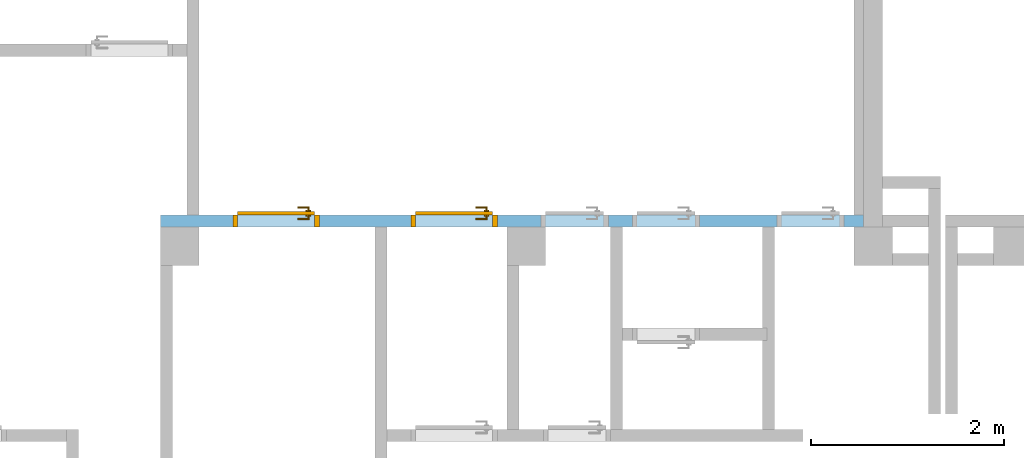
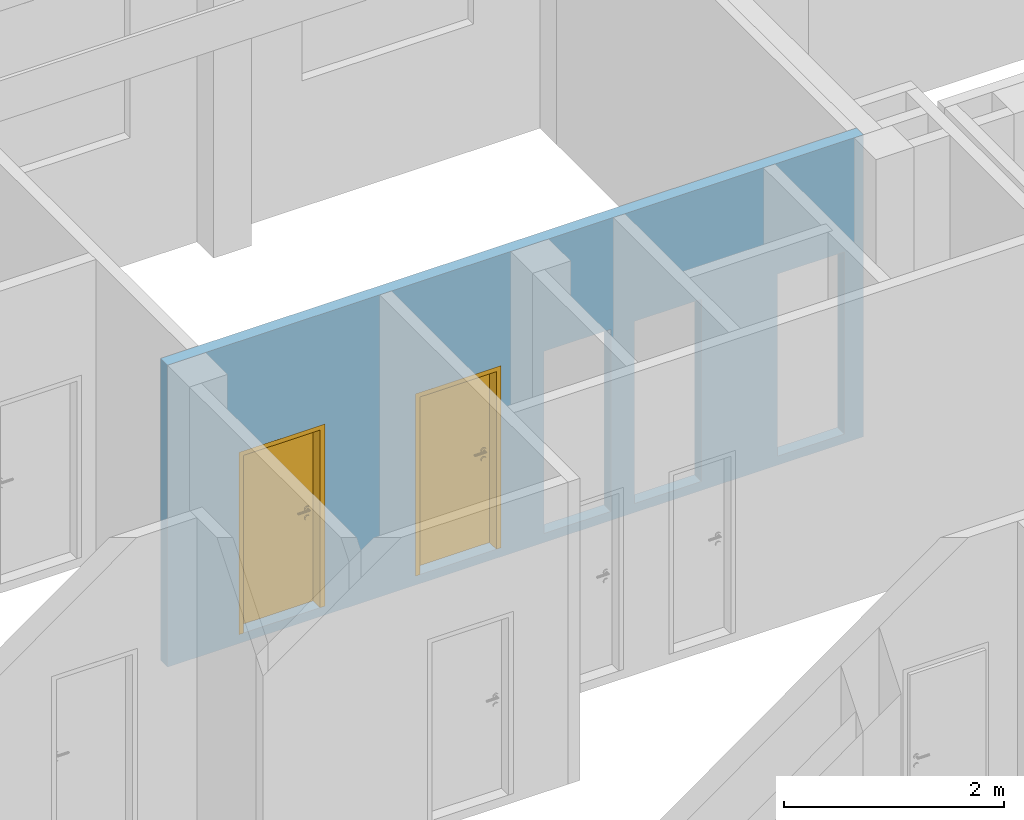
# One storey, part 17 of 37: 2 doors, 5 openings, plus 1 element that does not belong to this part.
"""IFC4 building model written with IfcOpenShell, lengths in metres."""

import ifcopenshell
import ifcopenshell.guid

model = None  # the IFC model being written
_history = None  # IfcOwnerHistory: only IFC2X3 demands one
_inside = {}  # id of a spatial element -> (the spatial element, [elements in it])
_under = {}  # id of a project, library or spatial element -> (it, [spatial elements below it])
_declared = {}  # id of a project -> (the project, [libraries it declares])
_typed = {}  # id of a type object -> (the type object, [elements of that type])
_made_of = {}  # id of a material, layer set ... -> (it, [elements and type objects made of it])


def new_model(schema):
    """Start an empty IFC model of exactly this schema.

    Asked for "IFC4X3", IfcOpenShell would pick the latest addendum, in which some entities
    have other attributes; the version numbers below select the first issue.
    IFC2X3 requires an IfcOwnerHistory on every rooted entity: one is made here for all.
    """
    global model, _history
    if schema == "IFC4X3":
        model = ifcopenshell.file(schema_version=(4, 3, 0, 0))
    else:
        model = ifcopenshell.file(schema=schema)
    _inside.clear()
    _under.clear()
    _declared.clear()
    _typed.clear()
    _made_of.clear()
    _history = None
    if model.schema == "IFC2X3":
        org = make("IfcOrganization", Name="unknown")
        user = make(
            "IfcPersonAndOrganization",
            ThePerson=make("IfcPerson", FamilyName="unknown"),
            TheOrganization=org,
        )
        app = make(
            "IfcApplication",
            ApplicationDeveloper=org,
            Version="unknown",
            ApplicationFullName="unknown",
            ApplicationIdentifier="unknown",
        )
        _history = make(
            "IfcOwnerHistory",
            OwningUser=user,
            OwningApplication=app,
            ChangeAction="ADDED",
            CreationDate=0,
        )
    return model


def make(cls, **values):
    """One entity of the class cls with the attributes given. An attribute that is None is left unset."""
    return model.create_entity(
        cls, **{name: value for name, value in values.items() if value is not None}
    )


def entity(cls, *values):
    """Any entity or typed value of the class cls, its attributes in the order of the schema. None: left unset."""
    e = model.create_entity(cls)
    for i, value in enumerate(values):
        if value is not None:
            e[i] = value
    return e


def rooted(cls, **values):
    """An entity with a GlobalId (a new one), such as an element, a storey or a relation."""
    return make(cls, GlobalId=ifcopenshell.guid.new(), OwnerHistory=_history, **values)


def si_unit(unit_type, name, prefix=None):
    """IfcSIUnit, for example si_unit("LENGTHUNIT", "METRE", prefix="MILLI")."""
    return make("IfcSIUnit", UnitType=unit_type, Prefix=prefix, Name=name)


def converted_unit(unit_type, name, factor, base, dimensions=None, offset=None):
    """IfcConversionBasedUnit, such as the inch: factor (a typed value) times the base unit."""
    return make(
        "IfcConversionBasedUnit"
        if offset is None
        else "IfcConversionBasedUnitWithOffset",
        ConversionOffset=offset,
        Dimensions=None
        if dimensions is None
        else entity("IfcDimensionalExponents", *dimensions),
        UnitType=unit_type,
        Name=name,
        ConversionFactor=make(
            "IfcMeasureWithUnit", ValueComponent=factor, UnitComponent=base
        ),
    )


def derived_unit(unit_type, elements):
    """IfcDerivedUnit: a product of units, each with its exponent."""
    return make(
        "IfcDerivedUnit",
        Elements=[
            make("IfcDerivedUnitElement", Unit=unit, Exponent=power)
            for unit, power in elements
        ],
        UnitType=unit_type,
    )


def assignment(units):
    """IfcUnitAssignment: the units of a project."""
    return None if units is None else make("IfcUnitAssignment", Units=units)


def point(xyz):
    """IfcCartesianPoint."""
    return None if xyz is None else make("IfcCartesianPoint", Coordinates=xyz)


def direction(xyz):
    """IfcDirection."""
    return None if xyz is None else make("IfcDirection", DirectionRatios=xyz)


def frame(location, z_axis=None, x_axis=None):
    """IfcAxis2Placement3D, a coordinate frame: its origin and axes. An axis left out is left unset."""
    return make(
        "IfcAxis2Placement3D",
        Location=point(location),
        Axis=direction(z_axis),
        RefDirection=direction(x_axis),
    )


def frame_2d(location, x_axis=None):
    """IfcAxis2Placement2D, a coordinate frame in the plane: its origin and x axis."""
    return make(
        "IfcAxis2Placement2D", Location=point(location), RefDirection=direction(x_axis)
    )


def origin():
    """The frame at (0, 0, 0) with its axes left unset."""
    return frame((0.0, 0.0, 0.0))


def origin_with_axes():
    """The frame at (0, 0, 0) with the z axis (0, 0, 1) and the x axis (1, 0, 0) written out."""
    return frame((0.0, 0.0, 0.0), z_axis=(0.0, 0.0, 1.0), x_axis=(1.0, 0.0, 0.0))


def place(relative_to, where):
    """IfcLocalPlacement: puts the frame where relative to a parent placement (None: the world)."""
    return make(
        "IfcLocalPlacement", PlacementRelTo=relative_to, RelativePlacement=where
    )


def context(
    kind, dimensions, precision=None, world=None, true_north=None, identifier=None
):
    """IfcGeometricRepresentationContext, for example the 3D "Model" context."""
    return make(
        "IfcGeometricRepresentationContext",
        ContextIdentifier=identifier,
        ContextType=kind,
        CoordinateSpaceDimension=dimensions,
        Precision=precision,
        WorldCoordinateSystem=world,
        TrueNorth=true_north,
    )


def subcontext(parent, identifier, kind, view, scale=None):
    """IfcGeometricRepresentationSubContext, for example "Body" below "Model"."""
    return make(
        "IfcGeometricRepresentationSubContext",
        ContextIdentifier=identifier,
        ContextType=kind,
        ParentContext=parent,
        TargetScale=scale,
        TargetView=view,
    )


def project(units=None, contexts=None):
    """IfcProject with its units and contexts."""
    return rooted(
        "IfcProject",
        Name="project",
        RepresentationContexts=contexts,
        UnitsInContext=assignment(units),
    )


def spatial(cls, under=None, at=None, **own):
    """A site, building, storey or space (cls), placed at a placement, below another one or the project."""
    s = rooted(cls, ObjectPlacement=at, **own)
    if under is not None:
        _under.setdefault(under.id(), (under, []))[1].append(s)
    return s


def polyline(points):
    """IfcPolyline through the points."""
    return make("IfcPolyline", Points=[point(p) for p in points])


def profile(cls, at=None, kind="AREA", **sizes):
    """A parametric profile (cls). Its sizes go by their IFC names, for example OverallWidth=200.0."""
    return make(cls, ProfileType=kind, Position=at, **sizes)


def rectangle(**sizes):
    """IfcRectangleProfileDef."""
    return profile("IfcRectangleProfileDef", **sizes)


def outline(outer, holes=None, kind="AREA"):
    """IfcArbitraryClosedProfileDef: a profile drawn as a closed curve; with holes, ...WithVoids."""
    if holes is None:
        return make("IfcArbitraryClosedProfileDef", ProfileType=kind, OuterCurve=outer)
    return make(
        "IfcArbitraryProfileDefWithVoids",
        ProfileType=kind,
        OuterCurve=outer,
        InnerCurves=holes,
    )


def extrude(swept, where, along, depth):
    """IfcExtrudedAreaSolid: the profile swept, set in the frame where, extruded along a direction by depth."""
    return make(
        "IfcExtrudedAreaSolid",
        SweptArea=swept,
        Position=where,
        ExtrudedDirection=direction(along),
        Depth=depth,
    )


def faces_of(points, faces, orient=None, outer=None):
    """IfcFace entities. A face is a list of loops; a loop is a list of indices into points, from 0.

    orient and outer hold one flag for each loop. By default every Orientation is true, the
    first loop of a face is its IfcFaceOuterBound and the others are IfcFaceBound.
    """
    made = []
    for i, loops in enumerate(faces):
        bounds = []
        for j, loop in enumerate(loops):
            is_outer = j == 0 if outer is None else outer[i][j]
            bounds.append(
                make(
                    "IfcFaceOuterBound" if is_outer else "IfcFaceBound",
                    Bound=make("IfcPolyLoop", Polygon=[points[k] for k in loop]),
                    Orientation=True if orient is None else orient[i][j],
                )
            )
        made.append(make("IfcFace", Bounds=bounds))
    return made


def closed_shell(faces, orient=None, outer=None):
    """The faces of one IfcClosedShell. faceted_brep and surface_model build it on their shared points."""
    return ("IfcClosedShell", faces, orient, outer)


def open_shell(faces, orient=None, outer=None):
    """The faces of one IfcOpenShell. surface_model builds it on its shared points."""
    return ("IfcOpenShell", faces, orient, outer)


def surface_model(cls, points, shells):
    """IfcFaceBasedSurfaceModel or IfcShellBasedSurfaceModel (cls): surfaces that need not close."""
    shared = [point(p) for p in points]
    made = [make(c, CfsFaces=faces_of(shared, fs, o, b)) for c, fs, o, b in shells]
    if cls == "IfcFaceBasedSurfaceModel":
        return make(cls, FbsmFaces=made)
    return make(cls, SbsmBoundary=made)


def shape(context_of_items, identifier, shape_type, items):
    """IfcShapeRepresentation: the items that make up one representation, for example the "Body"."""
    return make(
        "IfcShapeRepresentation",
        ContextOfItems=context_of_items,
        RepresentationIdentifier=identifier,
        RepresentationType=shape_type,
        Items=items,
    )


def source(mapping_origin, context_of_items, identifier, shape_type, items):
    """IfcRepresentationMap: a shape defined once, which mapped items show again and again."""
    return make(
        "IfcRepresentationMap",
        MappingOrigin=mapping_origin,
        MappedRepresentation=shape(context_of_items, identifier, shape_type, items),
    )


def transform(
    local_origin,
    x_axis=None,
    y_axis=None,
    z_axis=None,
    scale=None,
    scale2=None,
    scale3=None,
    uniform=True,
):
    """IfcCartesianTransformationOperator3D, or its non-uniform kind. x_axis, y_axis, z_axis: its Axis1, 2, 3."""
    if uniform:
        return make(
            "IfcCartesianTransformationOperator3D",
            Axis1=direction(x_axis),
            Axis2=direction(y_axis),
            LocalOrigin=point(local_origin),
            Scale=scale,
            Axis3=direction(z_axis),
        )
    return make(
        "IfcCartesianTransformationOperator3DnonUniform",
        Axis1=direction(x_axis),
        Axis2=direction(y_axis),
        LocalOrigin=point(local_origin),
        Scale=scale,
        Axis3=direction(z_axis),
        Scale2=scale2,
        Scale3=scale3,
    )


def mapped(mapping_source, mapping_target):
    """IfcMappedItem: shows the shape of a source again, moved by a transform."""
    return make(
        "IfcMappedItem", MappingSource=mapping_source, MappingTarget=mapping_target
    )


def material(Name=None, Category=None):
    """IfcMaterial."""
    return make("IfcMaterial", Name=Name, Category=Category)


def layer(
    of_material, thickness, ventilated=None, Name=None, Category=None, Priority=None
):
    """IfcMaterialLayer: one layer of a wall or slab, of a material (None: an air gap)."""
    return make(
        "IfcMaterialLayer",
        Material=of_material,
        LayerThickness=thickness,
        IsVentilated=ventilated,
        Name=Name,
        Category=Category,
        Priority=Priority,
    )


def layer_set(layers, Name=None):
    """IfcMaterialLayerSet."""
    return make("IfcMaterialLayerSet", MaterialLayers=layers, LayerSetName=Name)


def layer_usage(for_layer_set, set_direction, sense, offset, extent=None):
    """IfcMaterialLayerSetUsage: how a layer set lies in its element."""
    return make(
        "IfcMaterialLayerSetUsage",
        ForLayerSet=for_layer_set,
        LayerSetDirection=set_direction,
        DirectionSense=sense,
        OffsetFromReferenceLine=offset,
        ReferenceExtent=extent,
    )


def made_of(thing, what):
    """Note that an element or type object is made of a material, layer set ...; save() writes the relation."""
    if what is not None:
        _made_of.setdefault(what.id(), (what, []))[1].append(thing)
    return thing


def type_object(cls, material=None, **own):
    """A type object (cls), such as IfcWallType, which elements share."""
    return made_of(rooted(cls, **own), material)


def element(
    cls,
    number,
    at=None,
    inside=None,
    cuts=None,
    type_object=None,
    material=None,
    context=None,
    identifier="Body",
    shape_type=None,
    held_by="IfcProductDefinitionShape",
    body=None,
    shapes=None,
    **own,
):
    """One element of the class cls, such as IfcWall. Its Tag is "e" and its number.

    at: its placement. inside: the storey or other place that contains it. cuts: it is an
    opening in that element (IfcRelVoidsElement). A single representation is given by context,
    identifier, shape_type and body (its items); several are given by shapes. held_by: the class
    of the entity that holds the representations. save() writes the other relations.
    """
    e = rooted(cls, Tag="e%d" % number, ObjectPlacement=at, **own)
    if body is not None:
        shapes = [shape(context, identifier, shape_type, body)]
    if shapes is not None:
        e.Representation = make(held_by, Representations=shapes)
    if inside is not None:
        _inside.setdefault(inside.id(), (inside, []))[1].append(e)
    if cuts is not None:
        rooted(
            "IfcRelVoidsElement", RelatingBuildingElement=cuts, RelatedOpeningElement=e
        )
    if type_object is not None:
        _typed.setdefault(type_object.id(), (type_object, []))[1].append(e)
    return made_of(e, material)


def fill(opening, filler):
    """IfcRelFillsElement: the door or window that sits in an opening."""
    return rooted(
        "IfcRelFillsElement",
        RelatingOpeningElement=opening,
        RelatedBuildingElement=filler,
    )


def aggregate(whole, parts):
    """IfcRelAggregates: a whole, such as a stair, and the parts it consists of."""
    return rooted("IfcRelAggregates", RelatingObject=whole, RelatedObjects=parts)


def save(model, path):
    """Write the relations noted so far, then the file.

    IfcRelAggregates (storeys below a building ...), IfcRelContainedInSpatialStructure (elements
    in a storey), IfcRelDefinesByType, IfcRelAssociatesMaterial and IfcRelDeclares: one each for
    every whole, place, type object, material and project.
    """
    for whole, parts in _under.values():
        aggregate(whole, parts)
    for where, things in _inside.values():
        rooted(
            "IfcRelContainedInSpatialStructure",
            RelatedElements=things,
            RelatingStructure=where,
        )
    for kind, things in _typed.values():
        rooted("IfcRelDefinesByType", RelatedObjects=things, RelatingType=kind)
    for what, things in _made_of.values():
        rooted("IfcRelAssociatesMaterial", RelatedObjects=things, RelatingMaterial=what)
    for by, libraries in _declared.values():
        rooted("IfcRelDeclares", RelatingContext=by, RelatedDefinitions=libraries)
    model.write(path)


model = new_model("IFC4")

# Units and contexts
model_context = context("Model", 3, precision=1e-05, world=origin())
body_context = subcontext(model_context, "Body", "Model", "MODEL_VIEW")
ifc_project = project(units=[si_unit("LENGTHUNIT", "METRE"), si_unit("AREAUNIT", "SQUARE_METRE"), si_unit("VOLUMEUNIT", "CUBIC_METRE"), si_unit("MASSUNIT", "GRAM", prefix="KILO"), converted_unit("PLANEANGLEUNIT", "DEGREE", entity("IfcPlaneAngleMeasure", 0.0174532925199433), si_unit("PLANEANGLEUNIT", "RADIAN"), dimensions=[0, 0, 0, 0, 0, 0, 0]), derived_unit("THERMALTRANSMITTANCEUNIT", [(si_unit("POWERUNIT", "WATT"), 1), (si_unit("THERMODYNAMICTEMPERATUREUNIT", "KELVIN"), -1), (si_unit("LENGTHUNIT", "METRE"), -2)]), derived_unit("VOLUMETRICFLOWRATEUNIT", [(si_unit("LENGTHUNIT", "METRE"), 3), (converted_unit("TIMEUNIT", "hour", entity("IfcTimeMeasure", 3600.0), si_unit("TIMEUNIT", "SECOND"), dimensions=[0, 0, 1, 0, 0, 0, 0]), -1), (si_unit("LENGTHUNIT", "METRE"), -1)])], contexts=[model_context])

# Site, building, storey
site_placement = place(None, origin())
site = spatial("IfcSite", under=ifc_project, at=site_placement, Name="3. ASŘ", CompositionType="ELEMENT")
building_placement = place(site_placement, origin())
building = spatial("IfcBuilding", under=site, at=building_placement, Name="Pavilon B", CompositionType="ELEMENT")
storey_placement = place(building_placement, origin())
storey = spatial("IfcBuildingStorey", under=building, at=storey_placement, Name="Půdorys 1.NP", CompositionType="ELEMENT", Elevation=0.0)

# Wall, openings, doors
ifc_material = material(Name="ZDIVO Z CDm")
ifc_layer = layer(ifc_material, 0.125)
ifc_layer_set = layer_set([ifc_layer])
ifc_layer_usage = layer_usage(ifc_layer_set, "AXIS2", "POSITIVE", 0.0)
wall_placement = place(storey_placement, frame((24.4, -21.4, -0.1)))
wall = element("IfcWall", 1, at=wall_placement, inside=storey, material=ifc_layer_usage, Name="ZDIVO Z CDm", context=body_context, shape_type="SweptSolid", body=[
    extrude(rectangle(XDim=7.3, YDim=0.125, at=frame_2d((3.65, 0.0625), x_axis=(1.0, 0.0))), origin_with_axes(), (0.0, 0.0, 1.0), 3.35),
])
opening_1_placement = place(wall_placement, frame((4.65, 0.125, 0.1), z_axis=(0.0, -1.0, 0.0), x_axis=(0.0, 0.0, 1.0)))
element("IfcOpeningElement", 2, at=opening_1_placement, cuts=wall, Name="Dveřní otvor", ObjectType="Opening", context=body_context, shape_type="SweptSolid", body=[
    extrude(outline(polyline([(0.0, 0.7), (2.02, 0.7), (2.02, 0.0), (0.0, 0.0), (0.0, 0.7)])), origin_with_axes(), (0.0, 0.0, 1.0), 0.125),
])
opening_2_placement = place(wall_placement, frame((5.6, 0.125, 0.1), z_axis=(0.0, -1.0, 0.0), x_axis=(0.0, 0.0, 1.0)))
element("IfcOpeningElement", 3, at=opening_2_placement, cuts=wall, Name="Dveřní otvor", ObjectType="Opening", context=body_context, shape_type="SweptSolid", body=[
    extrude(outline(polyline([(0.0, 0.7), (2.02, 0.7), (2.02, 0.0), (0.0, 0.0), (0.0, 0.7)])), origin_with_axes(), (0.0, 0.0, 1.0), 0.125),
])
opening_3_placement = place(wall_placement, frame((7.1, 0.125, 0.1), z_axis=(0.0, -1.0, 0.0), x_axis=(0.0, 0.0, 1.0)))
element("IfcOpeningElement", 4, at=opening_3_placement, cuts=wall, Name="Dveřní otvor", ObjectType="Opening", context=body_context, shape_type="SweptSolid", body=[
    extrude(outline(polyline([(0.0, 0.7), (2.02, 0.7), (2.02, 0.0), (0.0, 0.0), (0.0, 0.7)])), origin_with_axes(), (0.0, 0.0, 1.0), 0.125),
])
opening_4_placement = place(wall_placement, frame((1.65, 0.125, 0.1), z_axis=(0.0, -1.0, 0.0), x_axis=(0.0, 0.0, 1.0)))
opening_4 = element("IfcOpeningElement", 5, at=opening_4_placement, cuts=wall, Name="Dveřní otvor", ObjectType="Opening", context=body_context, shape_type="SweptSolid", body=[
    extrude(outline(polyline([(0.0, 0.9), (2.02, 0.9), (2.02, 0.0), (0.0, 0.0), (0.0, 0.9)])), origin_with_axes(), (0.0, 0.0, 1.0), 0.125),
])
opening_5_placement = place(wall_placement, frame((3.5, 0.125, 0.1), z_axis=(0.0, -1.0, 0.0), x_axis=(0.0, 0.0, 1.0)))
opening_5 = element("IfcOpeningElement", 6, at=opening_5_placement, cuts=wall, Name="Dveřní otvor", ObjectType="Opening", context=body_context, shape_type="SweptSolid", body=[
    extrude(outline(polyline([(0.0, 0.9), (2.02, 0.9), (2.02, 0.0), (0.0, 0.0), (0.0, 0.9)])), origin_with_axes(), (0.0, 0.0, 1.0), 0.125),
])
door_type_1 = type_object("IfcDoorType", Name="D101", OperationType="NOTDEFINED", ParameterTakesPrecedence=False, PredefinedType="DOOR")
shared_shape = source(origin_with_axes(), body_context, "Body", "SurfaceModel", [
    surface_model("IfcShellBasedSurfaceModel", [(0.0, 0.125, 2.02), (0.0, 0.125, -7.65404249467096e-18), (0.05, 0.125, -7.65404249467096e-18), (0.05, 0.125, 2.02), (0.0, 0.0, 7.65404249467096e-18), (0.0, 2.41584530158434e-16, 2.02), (0.05, 2.41584530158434e-16, 2.02), (0.05, 0.0, 7.65404249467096e-18)], [closed_shell([[[0, 1, 2, 3]], [[4, 5, 6, 7]], [[1, 0, 5, 4]], [[2, 1, 4, 7]], [[3, 2, 7, 6]], [[0, 3, 6, 5]]], orient=[[False], [False], [False], [False], [False], [False]])]),
    surface_model("IfcShellBasedSurfaceModel", [(0.85, 0.125, 2.02), (0.85, 0.125, -7.65404249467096e-18), (0.9, 0.125, -7.65404249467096e-18), (0.9, 0.125, 2.02), (0.85, 0.0, 7.65404249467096e-18), (0.85, 2.41584530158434e-16, 2.02), (0.9, 2.41584530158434e-16, 2.02), (0.9, 0.0, 7.65404249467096e-18)], [closed_shell([[[0, 1, 2, 3]], [[4, 5, 6, 7]], [[1, 0, 5, 4]], [[2, 1, 4, 7]], [[3, 2, 7, 6]], [[0, 3, 6, 5]]], orient=[[False], [False], [False], [False], [False], [False]])]),
    surface_model("IfcShellBasedSurfaceModel", [(0.05, 0.125, 2.02), (0.05, 0.125, 1.97), (0.85, 0.125, 1.97), (0.85, 0.125, 2.02), (0.05, 2.41584530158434e-16, 1.97), (0.05, 2.41584530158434e-16, 2.02), (0.85, 2.41584530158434e-16, 2.02), (0.85, 2.41584530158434e-16, 1.97)], [closed_shell([[[0, 1, 2, 3]], [[4, 5, 6, 7]], [[1, 0, 5, 4]], [[2, 1, 4, 7]], [[3, 2, 7, 6]], [[0, 3, 6, 5]]], orient=[[False], [False], [False], [False], [False], [False]])]),
    surface_model("IfcShellBasedSurfaceModel", [(0.05, 0.165, 1.97), (0.05, 0.165, -1.25526296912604e-17), (0.85, 0.165, -1.25526296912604e-17), (0.85, 0.165, 1.97), (0.05, 0.125, -7.65404249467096e-18), (0.05, 0.125, 1.97), (0.85, 0.125, 1.97), (0.85, 0.125, -7.65404249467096e-18)], [closed_shell([[[0, 1, 2, 3]], [[4, 5, 6, 7]], [[1, 0, 5, 4]], [[2, 1, 4, 7]], [[3, 2, 7, 6]], [[0, 3, 6, 5]]], orient=[[False], [False], [False], [False], [False], [False]])]),
    surface_model("IfcShellBasedSurfaceModel", [(0.808815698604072, 0.125, 0.93625), (0.8125, 0.125, 0.95), (0.808815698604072, 0.125, 0.96375), (0.79875, 0.125, 0.973815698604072), (0.785, 0.125, 0.9775), (0.77125, 0.125, 0.973815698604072), (0.761184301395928, 0.125, 0.96375), (0.7575, 0.125, 0.95), (0.761184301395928, 0.125, 0.93625), (0.77125, 0.125, 0.926184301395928), (0.785, 0.125, 0.9225), (0.79875, 0.125, 0.926184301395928), (0.8125, 0.1125, 0.95), (0.808815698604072, 0.1125, 0.93625), (0.79875, 0.1125, 0.926184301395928), (0.785, 0.1125, 0.9225), (0.77125, 0.1125, 0.926184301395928), (0.761184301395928, 0.1125, 0.93625), (0.7575, 0.1125, 0.95), (0.761184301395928, 0.1125, 0.96375), (0.77125, 0.1125, 0.973815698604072), (0.785, 0.1125, 0.9775), (0.79875, 0.1125, 0.973815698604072), (0.808815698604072, 0.1125, 0.96375)], [closed_shell([[[0, 1, 2, 3, 4, 5, 6, 7, 8, 9, 10, 11]], [[12, 13, 14, 15, 16, 17, 18, 19, 20, 21, 22, 23]], [[1, 0, 13, 12]], [[2, 1, 12, 23]], [[3, 2, 23, 22]], [[4, 3, 22, 21]], [[5, 4, 21, 20]], [[6, 5, 20, 19]], [[7, 6, 19, 18]], [[8, 7, 18, 17]], [[9, 8, 17, 16]], [[10, 9, 16, 15]], [[11, 10, 15, 14]], [[0, 11, 14, 13]]], orient=[[False], [False], [False], [False], [False], [False], [False], [False], [False], [False], [False], [False], [False], [False]])]),
    surface_model("IfcShellBasedSurfaceModel", [(0.808815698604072, 0.125, 1.03625), (0.8125, 0.125, 1.05), (0.808815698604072, 0.125, 1.06375), (0.79875, 0.125, 1.07381569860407), (0.785, 0.125, 1.0775), (0.77125, 0.125, 1.07381569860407), (0.761184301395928, 0.125, 1.06375), (0.7575, 0.125, 1.05), (0.761184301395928, 0.125, 1.03625), (0.77125, 0.125, 1.02618430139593), (0.785, 0.125, 1.0225), (0.79875, 0.125, 1.02618430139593), (0.8125, 0.1125, 1.05), (0.808815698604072, 0.1125, 1.03625), (0.79875, 0.1125, 1.02618430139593), (0.785, 0.1125, 1.0225), (0.77125, 0.1125, 1.02618430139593), (0.761184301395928, 0.1125, 1.03625), (0.7575, 0.1125, 1.05), (0.761184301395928, 0.1125, 1.06375), (0.77125, 0.1125, 1.07381569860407), (0.785, 0.1125, 1.0775), (0.79875, 0.1125, 1.07381569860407), (0.808815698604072, 0.1125, 1.06375)], [closed_shell([[[0, 1, 2, 3, 4, 5, 6, 7, 8, 9, 10, 11]], [[12, 13, 14, 15, 16, 17, 18, 19, 20, 21, 22, 23]], [[1, 0, 13, 12]], [[2, 1, 12, 23]], [[3, 2, 23, 22]], [[4, 3, 22, 21]], [[5, 4, 21, 20]], [[6, 5, 20, 19]], [[7, 6, 19, 18]], [[8, 7, 18, 17]], [[9, 8, 17, 16]], [[10, 9, 16, 15]], [[11, 10, 15, 14]], [[0, 11, 14, 13]]], orient=[[False], [False], [False], [False], [False], [False], [False], [False], [False], [False], [False], [False], [False], [False]])]),
    surface_model("IfcShellBasedSurfaceModel", [(0.785, 0.125, 1.06), (0.78, 0.125, 1.05866025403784), (0.776339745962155, 0.125, 1.055), (0.775, 0.125, 1.05), (0.776339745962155, 0.125, 1.045), (0.78, 0.125, 1.04133974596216), (0.785, 0.125, 1.04), (0.79, 0.125, 1.04133974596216), (0.793660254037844, 0.125, 1.045), (0.795, 0.125, 1.05), (0.793660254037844, 0.125, 1.055), (0.79, 0.125, 1.05866025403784), (0.79, 0.0800000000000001, 1.05866025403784), (0.785, 0.0850000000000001, 1.06), (0.793660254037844, 0.0763397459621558, 1.055), (0.795, 0.0750000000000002, 1.05), (0.793660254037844, 0.0763397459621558, 1.045), (0.79, 0.0800000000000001, 1.04133974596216), (0.785, 0.0850000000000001, 1.04), (0.78, 0.0900000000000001, 1.04133974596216), (0.776339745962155, 0.0936602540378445, 1.045), (0.775, 0.0950000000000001, 1.05), (0.776339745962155, 0.0936602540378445, 1.055), (0.78, 0.0900000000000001, 1.05866025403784), (0.67, 0.0800000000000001, 1.05866025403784), (0.67, 0.0850000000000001, 1.06), (0.67, 0.0763397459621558, 1.055), (0.67, 0.0750000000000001, 1.05), (0.67, 0.0763397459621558, 1.045), (0.67, 0.0800000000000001, 1.04133974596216), (0.67, 0.0850000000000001, 1.04), (0.67, 0.0900000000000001, 1.04133974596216), (0.67, 0.0936602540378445, 1.045), (0.67, 0.0950000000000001, 1.05), (0.67, 0.0936602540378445, 1.055), (0.67, 0.0900000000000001, 1.05866025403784)], [open_shell([[[0, 1, 2, 3, 4, 5, 6, 7, 8, 9, 10, 11]], [[0, 11, 12, 13]], [[11, 10, 14, 12]], [[10, 9, 15, 14]], [[9, 8, 16, 15]], [[8, 7, 17, 16]], [[7, 6, 18, 17]], [[6, 5, 19, 18]], [[5, 4, 20, 19]], [[4, 3, 21, 20]], [[3, 2, 22, 21]], [[2, 1, 23, 22]], [[1, 0, 13, 23]], [[13, 12, 24, 25]], [[12, 14, 26, 24]], [[14, 15, 27, 26]], [[15, 16, 28, 27]], [[16, 17, 29, 28]], [[17, 18, 30, 29]], [[18, 19, 31, 30]], [[19, 20, 32, 31]], [[20, 21, 33, 32]], [[21, 22, 34, 33]], [[22, 23, 35, 34]], [[23, 13, 25, 35]]], orient=[[False], [False], [False], [False], [False], [False], [False], [False], [False], [False], [False], [False], [False], [False], [False], [False], [False], [False], [False], [False], [False], [False], [False], [False], [False]])]),
    surface_model("IfcShellBasedSurfaceModel", [(0.808815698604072, 0.165, 0.93625), (0.79875, 0.165, 0.926184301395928), (0.785, 0.165, 0.9225), (0.77125, 0.165, 0.926184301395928), (0.761184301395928, 0.165, 0.93625), (0.7575, 0.165, 0.95), (0.761184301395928, 0.165, 0.96375), (0.77125, 0.165, 0.973815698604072), (0.785, 0.165, 0.9775), (0.79875, 0.165, 0.973815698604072), (0.808815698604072, 0.165, 0.96375), (0.8125, 0.165, 0.95), (0.8125, 0.1775, 0.95), (0.808815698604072, 0.1775, 0.96375), (0.79875, 0.1775, 0.973815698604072), (0.785, 0.1775, 0.9775), (0.77125, 0.1775, 0.973815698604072), (0.761184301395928, 0.1775, 0.96375), (0.7575, 0.1775, 0.95), (0.761184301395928, 0.1775, 0.93625), (0.77125, 0.1775, 0.926184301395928), (0.785, 0.1775, 0.9225), (0.79875, 0.1775, 0.926184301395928), (0.808815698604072, 0.1775, 0.93625)], [closed_shell([[[0, 1, 2, 3, 4, 5, 6, 7, 8, 9, 10, 11]], [[12, 13, 14, 15, 16, 17, 18, 19, 20, 21, 22, 23]], [[11, 12, 23, 0]], [[10, 13, 12, 11]], [[9, 14, 13, 10]], [[8, 15, 14, 9]], [[7, 16, 15, 8]], [[6, 17, 16, 7]], [[5, 18, 17, 6]], [[4, 19, 18, 5]], [[3, 20, 19, 4]], [[2, 21, 20, 3]], [[1, 22, 21, 2]], [[0, 23, 22, 1]]], orient=[[False], [False], [False], [False], [False], [False], [False], [False], [False], [False], [False], [False], [False], [False]])]),
    surface_model("IfcShellBasedSurfaceModel", [(0.808815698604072, 0.165, 1.03625), (0.79875, 0.165, 1.02618430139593), (0.785, 0.165, 1.0225), (0.77125, 0.165, 1.02618430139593), (0.761184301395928, 0.165, 1.03625), (0.7575, 0.165, 1.05), (0.761184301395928, 0.165, 1.06375), (0.77125, 0.165, 1.07381569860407), (0.785, 0.165, 1.0775), (0.79875, 0.165, 1.07381569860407), (0.808815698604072, 0.165, 1.06375), (0.8125, 0.165, 1.05), (0.8125, 0.1775, 1.05), (0.808815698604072, 0.1775, 1.06375), (0.79875, 0.1775, 1.07381569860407), (0.785, 0.1775, 1.0775), (0.77125, 0.1775, 1.07381569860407), (0.761184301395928, 0.1775, 1.06375), (0.7575, 0.1775, 1.05), (0.761184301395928, 0.1775, 1.03625), (0.77125, 0.1775, 1.02618430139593), (0.785, 0.1775, 1.0225), (0.79875, 0.1775, 1.02618430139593), (0.808815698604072, 0.1775, 1.03625)], [closed_shell([[[0, 1, 2, 3, 4, 5, 6, 7, 8, 9, 10, 11]], [[12, 13, 14, 15, 16, 17, 18, 19, 20, 21, 22, 23]], [[11, 12, 23, 0]], [[10, 13, 12, 11]], [[9, 14, 13, 10]], [[8, 15, 14, 9]], [[7, 16, 15, 8]], [[6, 17, 16, 7]], [[5, 18, 17, 6]], [[4, 19, 18, 5]], [[3, 20, 19, 4]], [[2, 21, 20, 3]], [[1, 22, 21, 2]], [[0, 23, 22, 1]]], orient=[[False], [False], [False], [False], [False], [False], [False], [False], [False], [False], [False], [False], [False], [False]])]),
    surface_model("IfcShellBasedSurfaceModel", [(0.785, 0.165, 1.06), (0.79, 0.165, 1.05866025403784), (0.793660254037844, 0.165, 1.055), (0.795, 0.165, 1.05), (0.793660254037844, 0.165, 1.045), (0.79, 0.165, 1.04133974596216), (0.785, 0.165, 1.04), (0.78, 0.165, 1.04133974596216), (0.776339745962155, 0.165, 1.045), (0.775, 0.165, 1.05), (0.776339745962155, 0.165, 1.055), (0.78, 0.165, 1.05866025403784), (0.785, 0.205, 1.06), (0.79, 0.21, 1.05866025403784), (0.793660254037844, 0.213660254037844, 1.055), (0.795, 0.215, 1.05), (0.793660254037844, 0.213660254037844, 1.045), (0.79, 0.21, 1.04133974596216), (0.785, 0.205, 1.04), (0.78, 0.2, 1.04133974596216), (0.776339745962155, 0.196339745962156, 1.045), (0.775, 0.195, 1.05), (0.776339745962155, 0.196339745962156, 1.055), (0.78, 0.2, 1.05866025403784), (0.67, 0.205, 1.06), (0.67, 0.21, 1.05866025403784), (0.67, 0.213660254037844, 1.055), (0.67, 0.215, 1.05), (0.67, 0.213660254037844, 1.045), (0.67, 0.21, 1.04133974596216), (0.67, 0.205, 1.04), (0.67, 0.2, 1.04133974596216), (0.67, 0.196339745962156, 1.045), (0.67, 0.195, 1.05), (0.67, 0.196339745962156, 1.055), (0.67, 0.2, 1.05866025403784)], [open_shell([[[0, 1, 2, 3, 4, 5, 6, 7, 8, 9, 10, 11]], [[0, 12, 13, 1]], [[1, 13, 14, 2]], [[2, 14, 15, 3]], [[3, 15, 16, 4]], [[4, 16, 17, 5]], [[5, 17, 18, 6]], [[6, 18, 19, 7]], [[7, 19, 20, 8]], [[8, 20, 21, 9]], [[9, 21, 22, 10]], [[10, 22, 23, 11]], [[11, 23, 12, 0]], [[12, 24, 25, 13]], [[13, 25, 26, 14]], [[14, 26, 27, 15]], [[15, 27, 28, 16]], [[16, 28, 29, 17]], [[17, 29, 30, 18]], [[18, 30, 31, 19]], [[19, 31, 32, 20]], [[20, 32, 33, 21]], [[21, 33, 34, 22]], [[22, 34, 35, 23]], [[23, 35, 24, 12]]], orient=[[False], [False], [False], [False], [False], [False], [False], [False], [False], [False], [False], [False], [False], [False], [False], [False], [False], [False], [False], [False], [False], [False], [False], [False], [False]])]),
])
door_1_placement = place(opening_4_placement, frame((0.0, 0.9, 0.125), z_axis=(1.0, 0.0, 0.0), x_axis=(0.0, -1.0, 2.44929359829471e-16)))
door_1 = element("IfcDoor", 7, at=door_1_placement, inside=storey, type_object=door_type_1, Name="D101", OverallHeight=2.02, OverallWidth=0.9, context=body_context, shape_type="MappedRepresentation", body=[
    mapped(shared_shape, transform((0.0, 0.0, 0.0), x_axis=(1.0, 0.0, 0.0), y_axis=(0.0, 1.0, 0.0), z_axis=(0.0, 0.0, 1.0), scale=1.0)),
])
fill(opening_4, door_1)
door_type_2 = type_object("IfcDoorType", Name="D101", OperationType="NOTDEFINED", ParameterTakesPrecedence=False, PredefinedType="DOOR")
door_2_placement = place(opening_5_placement, frame((0.0, 0.9, 0.125), z_axis=(1.0, 0.0, 0.0), x_axis=(0.0, -1.0, 2.44929359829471e-16)))
door_2 = element("IfcDoor", 8, at=door_2_placement, inside=storey, type_object=door_type_2, Name="D101", OverallHeight=2.02, OverallWidth=0.9, context=body_context, shape_type="MappedRepresentation", body=[
    mapped(shared_shape, transform((0.0, 0.0, 0.0), x_axis=(1.0, 0.0, 0.0), y_axis=(0.0, 1.0, 0.0), z_axis=(0.0, 0.0, 1.0), scale=1.0)),
])
fill(opening_5, door_2)

save(model, "model.ifc")
